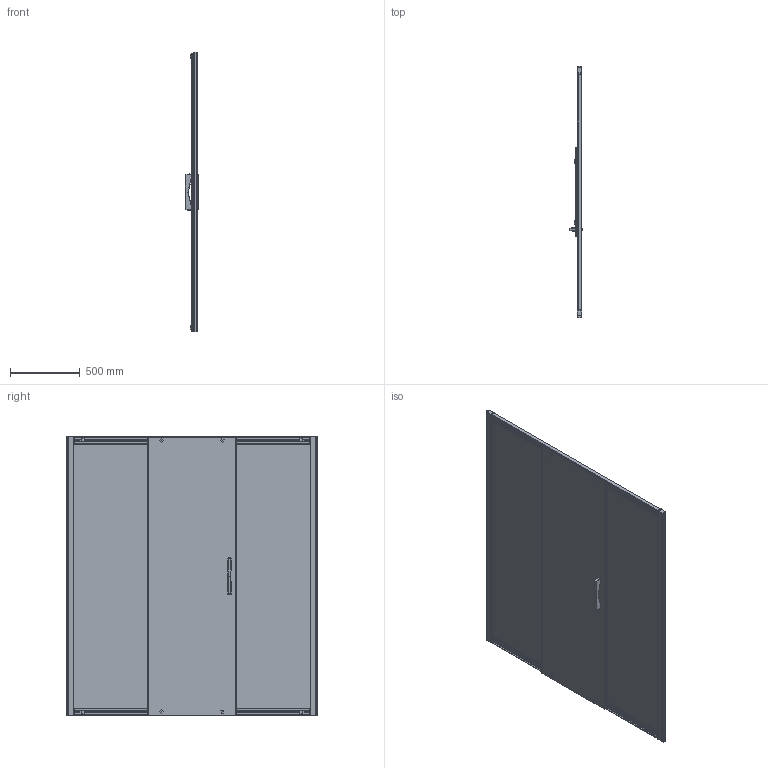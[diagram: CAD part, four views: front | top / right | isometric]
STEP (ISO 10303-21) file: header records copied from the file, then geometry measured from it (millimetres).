
FILE_DESCRIPTION(/* description */ (''),/* implementation_level */ '2;1');
FILE_NAME(/* name */ 'C:\4\! Кубеле\19\KÜBELE DE019D3\KÜBELE DE019D3-3D.stp',/* time_stamp */ '2019-06-17T12:04:49+03:00',/* author */ ('ChechurovS'),/* organization */ (''),/* preprocessor_version */ 'ST-DEVELOPER v15.2',/* originating_system */ 'Autodesk Inventor 2014',/* authorisation */ '');
FILE_SCHEMA (('CONFIG_CONTROL_DESIGN'));
Products named in the file (1): KÜBELE DE019D3-3D
Bounding box: 96.58 x 1800 x 2002.5 mm (x, y, z)
Topology: 2 solids, 112 shells, 2322 faces, 5911 edges, 3831 vertices
Faces by surface type: plane 1409, cylinder 601, bspline 144, torus 76, cone 48, sphere 44
Full cylindrical faces by diameter (mm): 3 x2, 3.7 x12, 8.4 x4, 9.5 x8, 10 x2, 13.2 x4, 14 x8, 16.5 x8, 18 x8, 19 x12, 22 x4, 28.7 x4, 30 x6
Entity records: 87065 total; most frequent: CARTESIAN_POINT 29197, ORIENTED_EDGE 11546, DIRECTION 11252, EDGE_CURVE 5767, VERTEX_POINT 3787, AXIS2_PLACEMENT_3D 3765, LINE 3722, VECTOR 3722
